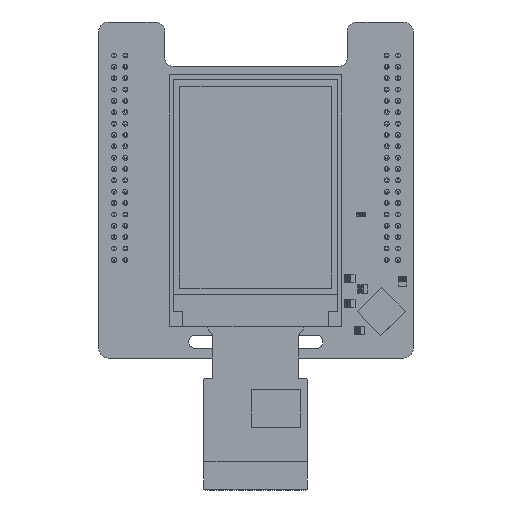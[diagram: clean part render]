
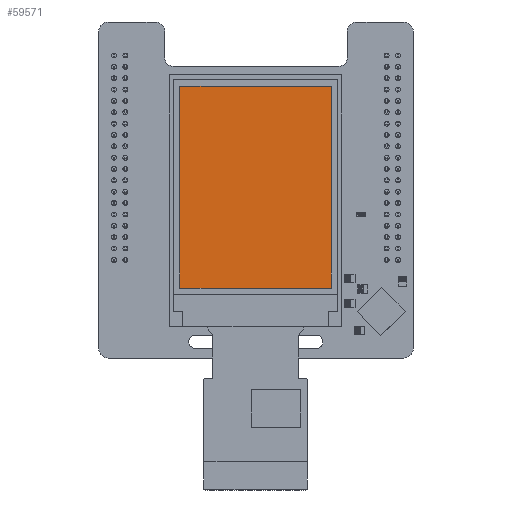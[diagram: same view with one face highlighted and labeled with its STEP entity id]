
A CAD part, top view. The second image highlights one B-rep face of the part: STEP entity #59571.
In plain terms, the highlighted planar face has unit normal (0, 0, 1).
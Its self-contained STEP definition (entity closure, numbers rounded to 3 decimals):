
#59442 = VERTEX_POINT('',#59443);
#59443 = CARTESIAN_POINT('',(-16.92,22.56,1.8));
#59449 = EDGE_CURVE('',#59442,#59450,#59452,.T.);
#59450 = VERTEX_POINT('',#59451);
#59451 = CARTESIAN_POINT('',(-16.92,-22.56,1.8));
#59452 = LINE('',#59453,#59454);
#59453 = CARTESIAN_POINT('',(-16.92,22.56,1.8));
#59454 = VECTOR('',#59455,1.);
#59455 = DIRECTION('',(0.,-1.,0.));
#59480 = EDGE_CURVE('',#59450,#59481,#59483,.T.);
#59481 = VERTEX_POINT('',#59482);
#59482 = CARTESIAN_POINT('',(16.92,-22.56,1.8));
#59483 = LINE('',#59484,#59485);
#59484 = CARTESIAN_POINT('',(-16.92,-22.56,1.8));
#59485 = VECTOR('',#59486,1.);
#59486 = DIRECTION('',(1.,0.,0.));
#59511 = EDGE_CURVE('',#59481,#59512,#59514,.T.);
#59512 = VERTEX_POINT('',#59513);
#59513 = CARTESIAN_POINT('',(16.92,22.56,1.8));
#59514 = LINE('',#59515,#59516);
#59515 = CARTESIAN_POINT('',(16.92,-22.56,1.8));
#59516 = VECTOR('',#59517,1.);
#59517 = DIRECTION('',(0.,1.,0.));
#59542 = EDGE_CURVE('',#59512,#59442,#59543,.T.);
#59543 = LINE('',#59544,#59545);
#59544 = CARTESIAN_POINT('',(16.92,22.56,1.8));
#59545 = VECTOR('',#59546,1.);
#59546 = DIRECTION('',(-1.,0.,0.));
#59571 = ADVANCED_FACE('',(#59572),#59578,.F.);
#59572 = FACE_BOUND('',#59573,.T.);
#59573 = EDGE_LOOP('',(#59574,#59575,#59576,#59577));
#59574 = ORIENTED_EDGE('',*,*,#59449,.T.);
#59575 = ORIENTED_EDGE('',*,*,#59480,.T.);
#59576 = ORIENTED_EDGE('',*,*,#59511,.T.);
#59577 = ORIENTED_EDGE('',*,*,#59542,.T.);
#59578 = PLANE('',#59579);
#59579 = AXIS2_PLACEMENT_3D('',#59580,#59581,#59582);
#59580 = CARTESIAN_POINT('',(-16.92,22.56,1.8));
#59581 = DIRECTION('',(0.,0.,-1.));
#59582 = DIRECTION('',(-1.,0.,0.));
